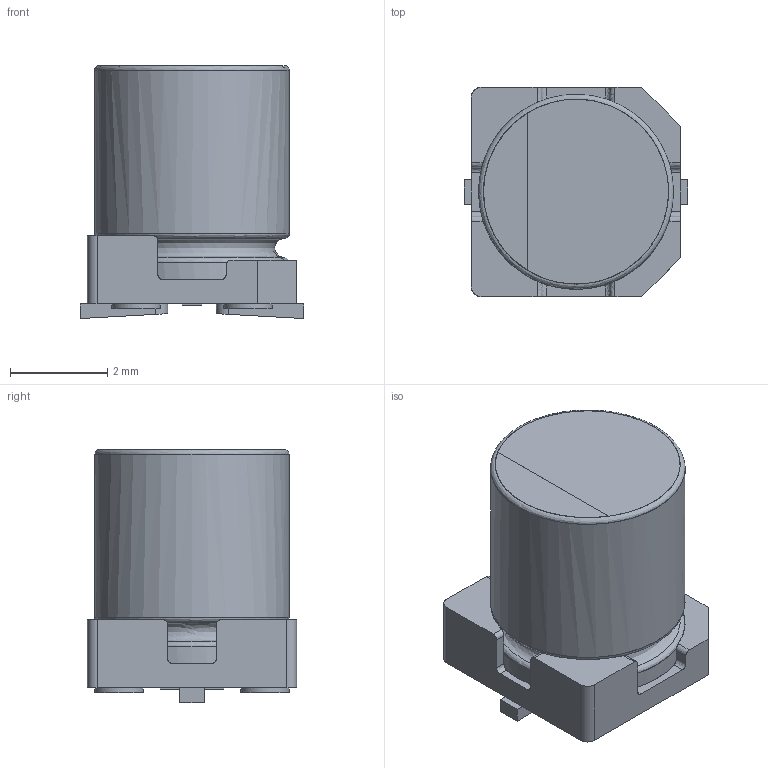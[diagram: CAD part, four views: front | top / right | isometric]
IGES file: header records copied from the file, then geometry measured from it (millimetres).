
Start section: JAMA-IS VERSION  1.0
Bounding box: 4.6 x 4.3 x 5.2 mm (x, y, z)
Surface area: 151.9 mm2 (no closed solid volume)
Topology: 0 solids, 0 shells, 81 faces, 922 edges, 904 vertices
Faces by surface type: bspline 81
